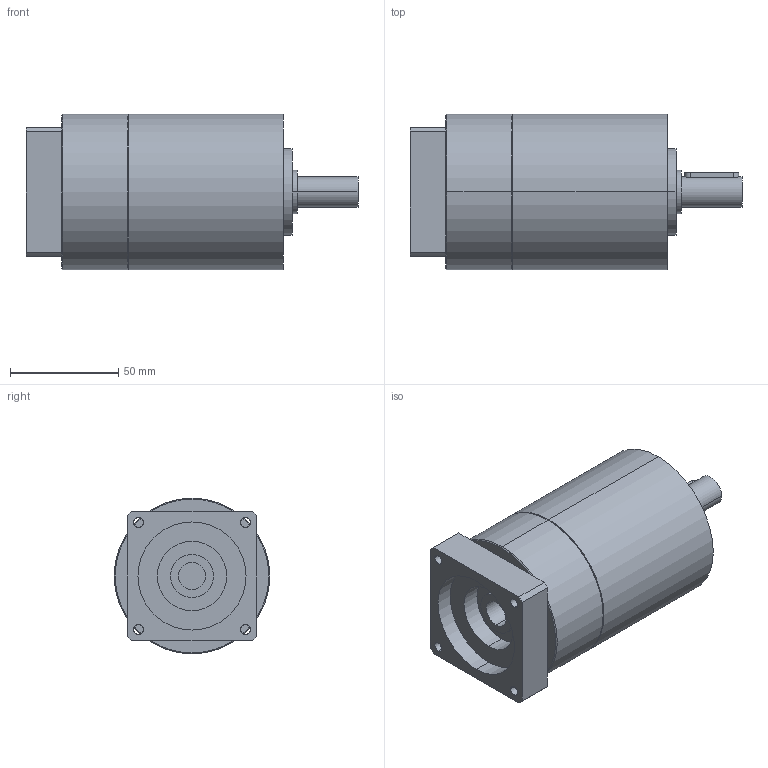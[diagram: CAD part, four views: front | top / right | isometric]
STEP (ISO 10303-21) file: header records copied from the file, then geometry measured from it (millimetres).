
FILE_DESCRIPTION(('CoCreate Modeling STEP Export'),'2;1');
FILE_NAME('GPT75_ig-9-12-16-20-25-28-35-40-50-70-100_14_B14T_12.7_P17.stp','2014-08-27T13:09:10',(''),(''),'CoCreate Modeling STEP processor for AP214 (Solid Model)','CoCreate Modeling 16.00C 25-Feb-2009 (C) Parametric Technology GmbH','');
FILE_SCHEMA(('AUTOMOTIVE_DESIGN { 1 0 10303 214 1 1 1 1 }'));
Length unit declared in the file: millimetre
Products named in the file (2): GPT75_ig-9-12-16-20-25-28-35-40-50-70-100_14_B14T_12.7_P17
Assembly tree (1 placements, depth 2):
  GPT75_ig-9-12-16-20-25-28-35-40-50-70-100_14_B14T_12.7_P17
    GPT75_ig-9-12-16-20-25-28-35-40-50-70-100_14_B14T_12.7_P17
Bounding box: 153.5 x 72 x 72 mm (x, y, z)
Volume: 459347 mm3; surface area: 43030.4 mm2
Topology: 1 solids, 1 shells, 80 faces, 198 edges, 129 vertices
Faces by surface type: cylinder 42, plane 34, cone 4
Entity records: 2353 total; most frequent: CARTESIAN_POINT 689, ORIENTED_EDGE 396, DIRECTION 276, EDGE_CURVE 198, VERTEX_POINT 129, AXIS2_PLACEMENT_3D 104, EDGE_LOOP 97, FACE_OUTER_BOUND 80
